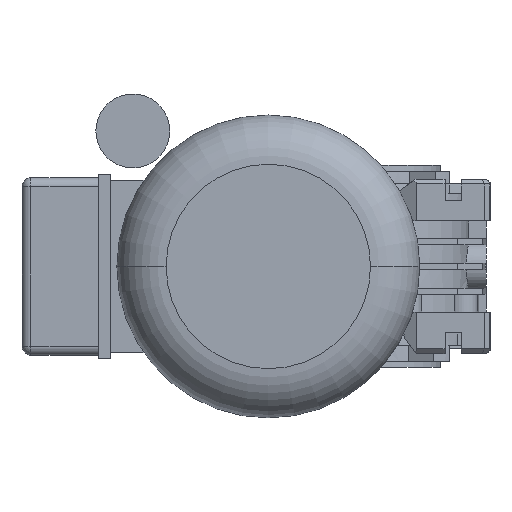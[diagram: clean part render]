
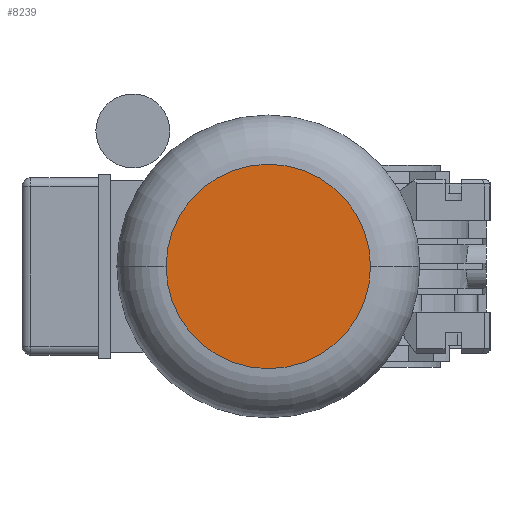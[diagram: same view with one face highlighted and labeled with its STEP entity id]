
A CAD part, left-side view. The second image highlights one B-rep face of the part: STEP entity #8239.
In plain terms, the highlighted planar face has unit normal (-1, 0, 0) as drawn and (0, 0, -1) by its records, which use the part's own axes.
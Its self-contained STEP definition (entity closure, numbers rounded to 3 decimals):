
#456 = AXIS2_PLACEMENT_3D ( 'NONE', #19220, #27503, #27764 ) ;
#3559 = VERTEX_POINT ( 'NONE', #35284 ) ;
#5645 = ORIENTED_EDGE ( 'NONE', *, *, #21333, .T. ) ;
#6662 = DIRECTION ( 'NONE',  ( 0., 0., -1. ) ) ;
#8239 = ADVANCED_FACE ( 'NONE', ( #22466 ), #26181, .T. ) ;
#10325 = CARTESIAN_POINT ( 'NONE',  ( 0., 0., -167.5 ) ) ;
#10378 = EDGE_CURVE ( 'NONE', #26649, #3559, #19245, .T. ) ;
#12008 = EDGE_LOOP ( 'NONE', ( #15467, #5645 ) ) ;
#12325 = AXIS2_PLACEMENT_3D ( 'NONE', #25840, #6662, #31811 ) ;
#12828 = CARTESIAN_POINT ( 'NONE',  ( 0., 41.5, -167.5 ) ) ;
#15467 = ORIENTED_EDGE ( 'NONE', *, *, #10378, .T. ) ;
#16460 = CIRCLE ( 'NONE', #28352, 41.5 ) ;
#19220 = CARTESIAN_POINT ( 'NONE',  ( 0., 0., -167.5 ) ) ;
#19245 = CIRCLE ( 'NONE', #456, 41.5 ) ;
#21333 = EDGE_CURVE ( 'NONE', #3559, #26649, #16460, .T. ) ;
#22466 = FACE_OUTER_BOUND ( 'NONE', #12008, .T. ) ;
#24707 = DIRECTION ( 'NONE',  ( 0., 0., -1. ) ) ;
#25840 = CARTESIAN_POINT ( 'NONE',  ( 0., 0., -167.5 ) ) ;
#26181 = PLANE ( 'NONE',  #12325 ) ;
#26649 = VERTEX_POINT ( 'NONE', #12828 ) ;
#27503 = DIRECTION ( 'NONE',  ( 0., 0., -1. ) ) ;
#27764 = DIRECTION ( 'NONE',  ( 0., 1., 0. ) ) ;
#28352 = AXIS2_PLACEMENT_3D ( 'NONE', #10325, #24707, #30095 ) ;
#30095 = DIRECTION ( 'NONE',  ( 0., 1., 0. ) ) ;
#31811 = DIRECTION ( 'NONE',  ( -1., 0., 0. ) ) ;
#35284 = CARTESIAN_POINT ( 'NONE',  ( 0., -41.5, -167.5 ) ) ;
